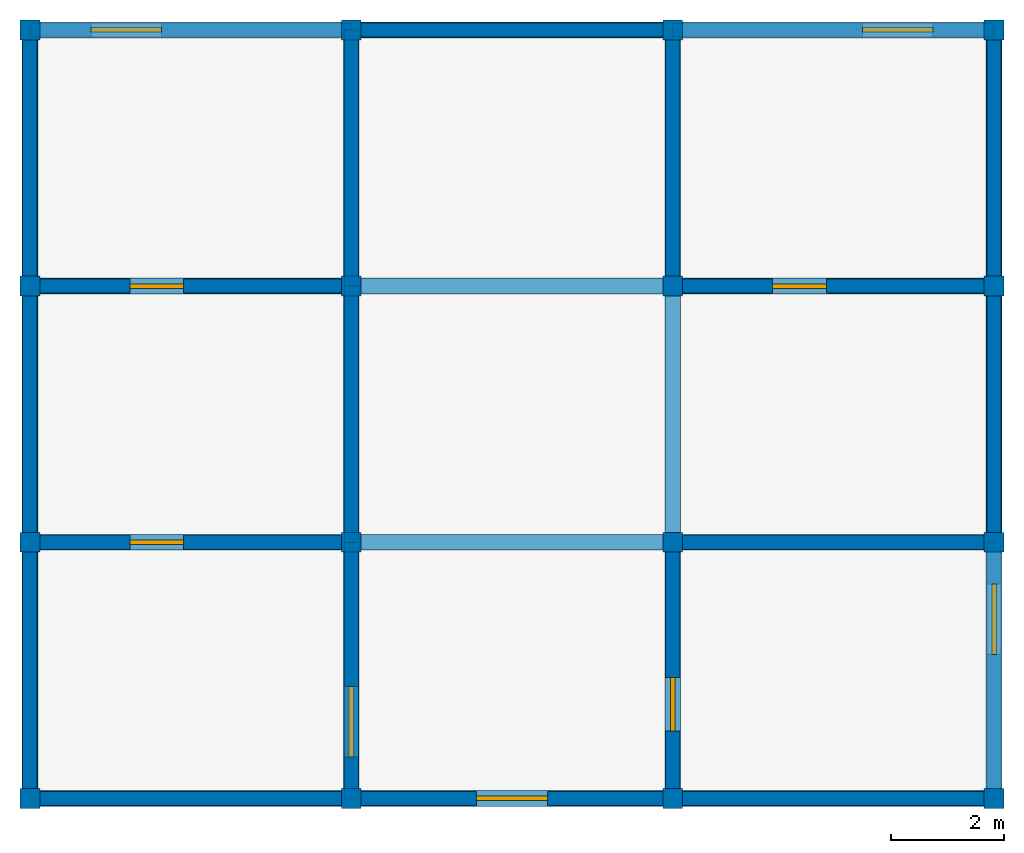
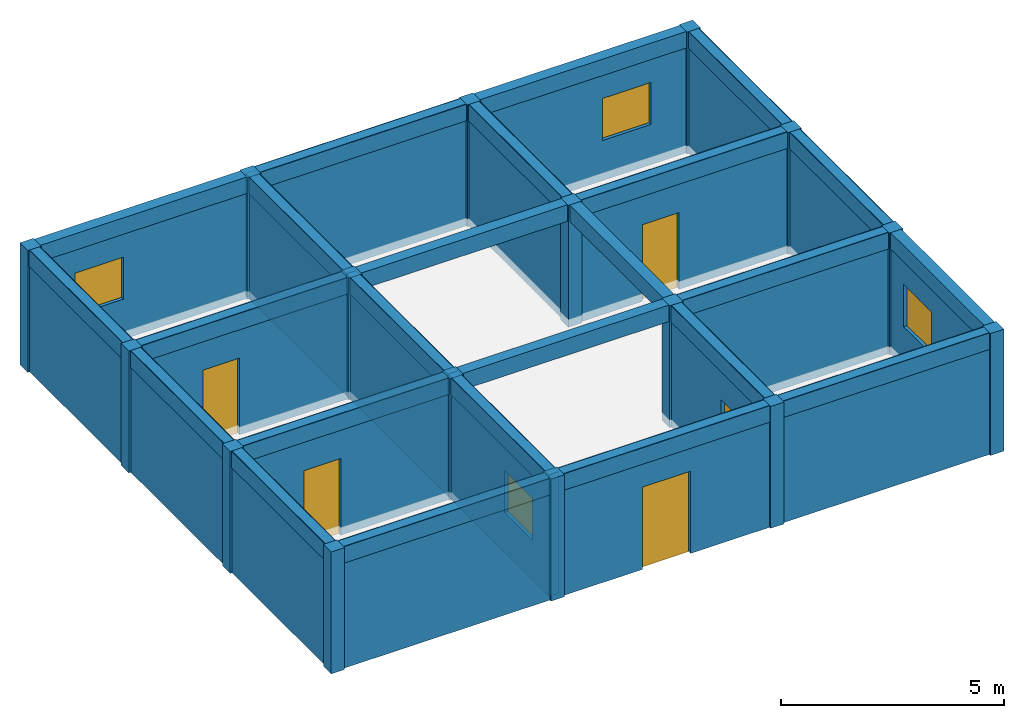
# One storey, incomplete: 24 beams, 24 walls, 16 columns, 5 doors, 4 windows, 9 openings.
"""IFC4X3 building model written with IfcOpenShell, lengths in metres."""

import ifcopenshell
import ifcopenshell.guid

model = None  # the IFC model being written
_history = None  # IfcOwnerHistory: only IFC2X3 demands one
_inside = {}  # id of a spatial element -> (the spatial element, [elements in it])
_under = {}  # id of a project, library or spatial element -> (it, [spatial elements below it])
_declared = {}  # id of a project -> (the project, [libraries it declares])
_typed = {}  # id of a type object -> (the type object, [elements of that type])
_made_of = {}  # id of a material, layer set ... -> (it, [elements and type objects made of it])


def new_model(schema):
    """Start an empty IFC model of exactly this schema.

    Asked for "IFC4X3", IfcOpenShell would pick the latest addendum, in which some entities
    have other attributes; the version numbers below select the first issue.
    IFC2X3 requires an IfcOwnerHistory on every rooted entity: one is made here for all.
    """
    global model, _history
    if schema == "IFC4X3":
        model = ifcopenshell.file(schema_version=(4, 3, 0, 0))
    else:
        model = ifcopenshell.file(schema=schema)
    _inside.clear()
    _under.clear()
    _declared.clear()
    _typed.clear()
    _made_of.clear()
    _history = None
    if model.schema == "IFC2X3":
        org = make("IfcOrganization", Name="unknown")
        user = make(
            "IfcPersonAndOrganization",
            ThePerson=make("IfcPerson", FamilyName="unknown"),
            TheOrganization=org,
        )
        app = make(
            "IfcApplication",
            ApplicationDeveloper=org,
            Version="unknown",
            ApplicationFullName="unknown",
            ApplicationIdentifier="unknown",
        )
        _history = make(
            "IfcOwnerHistory",
            OwningUser=user,
            OwningApplication=app,
            ChangeAction="ADDED",
            CreationDate=0,
        )
    return model


def make(cls, **values):
    """One entity of the class cls with the attributes given. An attribute that is None is left unset."""
    return model.create_entity(
        cls, **{name: value for name, value in values.items() if value is not None}
    )


def rooted(cls, **values):
    """An entity with a GlobalId (a new one), such as an element, a storey or a relation."""
    return make(cls, GlobalId=ifcopenshell.guid.new(), OwnerHistory=_history, **values)


def si_unit(unit_type, name, prefix=None):
    """IfcSIUnit, for example si_unit("LENGTHUNIT", "METRE", prefix="MILLI")."""
    return make("IfcSIUnit", UnitType=unit_type, Prefix=prefix, Name=name)


def assignment(units):
    """IfcUnitAssignment: the units of a project."""
    return None if units is None else make("IfcUnitAssignment", Units=units)


def point(xyz):
    """IfcCartesianPoint."""
    return None if xyz is None else make("IfcCartesianPoint", Coordinates=xyz)


def direction(xyz):
    """IfcDirection."""
    return None if xyz is None else make("IfcDirection", DirectionRatios=xyz)


def frame(location, z_axis=None, x_axis=None):
    """IfcAxis2Placement3D, a coordinate frame: its origin and axes. An axis left out is left unset."""
    return make(
        "IfcAxis2Placement3D",
        Location=point(location),
        Axis=direction(z_axis),
        RefDirection=direction(x_axis),
    )


def frame_2d(location, x_axis=None):
    """IfcAxis2Placement2D, a coordinate frame in the plane: its origin and x axis."""
    return make(
        "IfcAxis2Placement2D", Location=point(location), RefDirection=direction(x_axis)
    )


def origin_with_axes():
    """The frame at (0, 0, 0) with the z axis (0, 0, 1) and the x axis (1, 0, 0) written out."""
    return frame((0.0, 0.0, 0.0), z_axis=(0.0, 0.0, 1.0), x_axis=(1.0, 0.0, 0.0))


def origin_2d():
    """The frame at (0, 0) in the plane with its x axis left unset."""
    return frame_2d((0.0, 0.0))


def place(relative_to, where):
    """IfcLocalPlacement: puts the frame where relative to a parent placement (None: the world)."""
    return make(
        "IfcLocalPlacement", PlacementRelTo=relative_to, RelativePlacement=where
    )


def context(
    kind, dimensions, precision=None, world=None, true_north=None, identifier=None
):
    """IfcGeometricRepresentationContext, for example the 3D "Model" context."""
    return make(
        "IfcGeometricRepresentationContext",
        ContextIdentifier=identifier,
        ContextType=kind,
        CoordinateSpaceDimension=dimensions,
        Precision=precision,
        WorldCoordinateSystem=world,
        TrueNorth=true_north,
    )


def project(units=None, contexts=None):
    """IfcProject with its units and contexts."""
    return rooted(
        "IfcProject",
        Name="project",
        RepresentationContexts=contexts,
        UnitsInContext=assignment(units),
    )


def spatial(cls, under=None, at=None, **own):
    """A site, building, storey or space (cls), placed at a placement, below another one or the project."""
    s = rooted(cls, ObjectPlacement=at, **own)
    if under is not None:
        _under.setdefault(under.id(), (under, []))[1].append(s)
    return s


def profile(cls, at=None, kind="AREA", **sizes):
    """A parametric profile (cls). Its sizes go by their IFC names, for example OverallWidth=200.0."""
    return make(cls, ProfileType=kind, Position=at, **sizes)


def rectangle(**sizes):
    """IfcRectangleProfileDef."""
    return profile("IfcRectangleProfileDef", **sizes)


def extrude(swept, where, along, depth):
    """IfcExtrudedAreaSolid: the profile swept, set in the frame where, extruded along a direction by depth."""
    return make(
        "IfcExtrudedAreaSolid",
        SweptArea=swept,
        Position=where,
        ExtrudedDirection=direction(along),
        Depth=depth,
    )


def shape(context_of_items, identifier, shape_type, items):
    """IfcShapeRepresentation: the items that make up one representation, for example the "Body"."""
    return make(
        "IfcShapeRepresentation",
        ContextOfItems=context_of_items,
        RepresentationIdentifier=identifier,
        RepresentationType=shape_type,
        Items=items,
    )


def material(Name=None, Category=None):
    """IfcMaterial."""
    return make("IfcMaterial", Name=Name, Category=Category)


def made_of(thing, what):
    """Note that an element or type object is made of a material, layer set ...; save() writes the relation."""
    if what is not None:
        _made_of.setdefault(what.id(), (what, []))[1].append(thing)
    return thing


def element(
    cls,
    number,
    at=None,
    inside=None,
    cuts=None,
    type_object=None,
    material=None,
    context=None,
    identifier="Body",
    shape_type=None,
    held_by="IfcProductDefinitionShape",
    body=None,
    shapes=None,
    **own,
):
    """One element of the class cls, such as IfcWall. Its Tag is "e" and its number.

    at: its placement. inside: the storey or other place that contains it. cuts: it is an
    opening in that element (IfcRelVoidsElement). A single representation is given by context,
    identifier, shape_type and body (its items); several are given by shapes. held_by: the class
    of the entity that holds the representations. save() writes the other relations.
    """
    e = rooted(cls, Tag="e%d" % number, ObjectPlacement=at, **own)
    if body is not None:
        shapes = [shape(context, identifier, shape_type, body)]
    if shapes is not None:
        e.Representation = make(held_by, Representations=shapes)
    if inside is not None:
        _inside.setdefault(inside.id(), (inside, []))[1].append(e)
    if cuts is not None:
        rooted(
            "IfcRelVoidsElement", RelatingBuildingElement=cuts, RelatedOpeningElement=e
        )
    if type_object is not None:
        _typed.setdefault(type_object.id(), (type_object, []))[1].append(e)
    return made_of(e, material)


def fill(opening, filler):
    """IfcRelFillsElement: the door or window that sits in an opening."""
    return rooted(
        "IfcRelFillsElement",
        RelatingOpeningElement=opening,
        RelatedBuildingElement=filler,
    )


def aggregate(whole, parts):
    """IfcRelAggregates: a whole, such as a stair, and the parts it consists of."""
    return rooted("IfcRelAggregates", RelatingObject=whole, RelatedObjects=parts)


def save(model, path):
    """Write the relations noted so far, then the file.

    IfcRelAggregates (storeys below a building ...), IfcRelContainedInSpatialStructure (elements
    in a storey), IfcRelDefinesByType, IfcRelAssociatesMaterial and IfcRelDeclares: one each for
    every whole, place, type object, material and project.
    """
    for whole, parts in _under.values():
        aggregate(whole, parts)
    for where, things in _inside.values():
        rooted(
            "IfcRelContainedInSpatialStructure",
            RelatedElements=things,
            RelatingStructure=where,
        )
    for kind, things in _typed.values():
        rooted("IfcRelDefinesByType", RelatedObjects=things, RelatingType=kind)
    for what, things in _made_of.values():
        rooted("IfcRelAssociatesMaterial", RelatedObjects=things, RelatingMaterial=what)
    for by, libraries in _declared.values():
        rooted("IfcRelDeclares", RelatingContext=by, RelatedDefinitions=libraries)
    model.write(path)


model = new_model("IFC4X3")

# Units and contexts
model_context = context("Model", 3, precision=1e-05, world=origin_with_axes())
ifc_project = project(units=[si_unit("LENGTHUNIT", "METRE"), si_unit("AREAUNIT", "SQUARE_METRE"), si_unit("VOLUMEUNIT", "CUBIC_METRE")], contexts=[model_context])

# Site, building, storey
site = spatial("IfcSite", under=ifc_project, Name="Valdivia Parcel", CompositionType="ELEMENT")
building = spatial("IfcBuilding", under=site, Name="Strata Block", CompositionType="ELEMENT")
storey = spatial("IfcBuildingStorey", under=building, Name="Level 1", CompositionType="ELEMENT")

# Columns
ifc_material_1 = material(Name="Concrete")
column_1_placement = place(None, frame((-8.525, -6.795, 0.0), z_axis=(0.0, 0.0, 1.0), x_axis=(1.0, 0.0, 0.0)))
element("IfcColumn", 1, at=column_1_placement, inside=storey, material=ifc_material_1, Name="Column 1.1", ObjectType="Structural Column", PredefinedType="USERDEFINED", context=model_context, shape_type="SweptSolid", body=[
    extrude(rectangle(XDim=0.35, YDim=0.35, at=origin_2d()), origin_with_axes(), (0.0, 0.0, 1.0), 3.335),
])
column_2_placement = place(None, frame((-8.525, -2.265, 0.0), z_axis=(0.0, 0.0, 1.0), x_axis=(1.0, 0.0, 0.0)))
element("IfcColumn", 2, at=column_2_placement, inside=storey, material=ifc_material_1, Name="Column 1.2", ObjectType="Facade Column", PredefinedType="NOTDEFINED", context=model_context, shape_type="SweptSolid", body=[
    extrude(rectangle(XDim=0.35, YDim=0.35, at=origin_2d()), origin_with_axes(), (0.0, 0.0, 1.0), 3.335),
])
column_3_placement = place(None, frame((-8.525, 2.265, 0.0), z_axis=(0.0, 0.0, 1.0), x_axis=(1.0, 0.0, 0.0)))
element("IfcColumn", 3, at=column_3_placement, inside=storey, material=ifc_material_1, Name="Column 1.3", ObjectType="Facade Column", PredefinedType="USERDEFINED", context=model_context, shape_type="SweptSolid", body=[
    extrude(rectangle(XDim=0.35, YDim=0.35, at=origin_2d()), origin_with_axes(), (0.0, 0.0, 1.0), 3.335),
])
column_4_placement = place(None, frame((-8.525, 6.795, 0.0), z_axis=(0.0, 0.0, 1.0), x_axis=(1.0, 0.0, 0.0)))
element("IfcColumn", 4, at=column_4_placement, inside=storey, material=ifc_material_1, Name="Column 1.4", ObjectType="Core Column", PredefinedType="USERDEFINED", context=model_context, shape_type="SweptSolid", body=[
    extrude(rectangle(XDim=0.35, YDim=0.35, at=origin_2d()), origin_with_axes(), (0.0, 0.0, 1.0), 3.335),
])
column_5_placement = place(None, frame((-2.842, -6.795, 0.0), z_axis=(0.0, 0.0, 1.0), x_axis=(1.0, 0.0, 0.0)))
element("IfcColumn", 5, at=column_5_placement, inside=storey, material=ifc_material_1, Name="Column 1.5", ObjectType="Corner Column", PredefinedType="PILASTER", context=model_context, shape_type="SweptSolid", body=[
    extrude(rectangle(XDim=0.35, YDim=0.35, at=origin_2d()), origin_with_axes(), (0.0, 0.0, 1.0), 3.335),
])
column_6_placement = place(None, frame((-2.842, -2.265, 0.0), z_axis=(0.0, 0.0, 1.0), x_axis=(1.0, 0.0, 0.0)))
element("IfcColumn", 6, at=column_6_placement, inside=storey, material=ifc_material_1, Name="Column 1.6", ObjectType="Core Column", PredefinedType="NOTDEFINED", context=model_context, shape_type="SweptSolid", body=[
    extrude(rectangle(XDim=0.35, YDim=0.35, at=origin_2d()), origin_with_axes(), (0.0, 0.0, 1.0), 3.335),
])
column_7_placement = place(None, frame((-2.842, 2.265, 0.0), z_axis=(0.0, 0.0, 1.0), x_axis=(1.0, 0.0, 0.0)))
element("IfcColumn", 7, at=column_7_placement, inside=storey, material=ifc_material_1, Name="Column 1.7", ObjectType="Facade Column", PredefinedType="COLUMN", context=model_context, shape_type="SweptSolid", body=[
    extrude(rectangle(XDim=0.35, YDim=0.35, at=origin_2d()), origin_with_axes(), (0.0, 0.0, 1.0), 3.335),
])
column_8_placement = place(None, frame((-2.842, 6.795, 0.0), z_axis=(0.0, 0.0, 1.0), x_axis=(1.0, 0.0, 0.0)))
element("IfcColumn", 8, at=column_8_placement, inside=storey, material=ifc_material_1, Name="Column 1.8", ObjectType="Structural Column", PredefinedType="COLUMN", context=model_context, shape_type="SweptSolid", body=[
    extrude(rectangle(XDim=0.35, YDim=0.35, at=origin_2d()), origin_with_axes(), (0.0, 0.0, 1.0), 3.335),
])
column_9_placement = place(None, frame((2.841, -6.795, 0.0), z_axis=(0.0, 0.0, 1.0), x_axis=(1.0, 0.0, 0.0)))
element("IfcColumn", 9, at=column_9_placement, inside=storey, material=ifc_material_1, Name="Column 1.9", ObjectType="Facade Column", PredefinedType="COLUMN", context=model_context, shape_type="SweptSolid", body=[
    extrude(rectangle(XDim=0.35, YDim=0.35, at=origin_2d()), origin_with_axes(), (0.0, 0.0, 1.0), 3.335),
])
column_10_placement = place(None, frame((2.841, -2.265, 0.0), z_axis=(0.0, 0.0, 1.0), x_axis=(1.0, 0.0, 0.0)))
element("IfcColumn", 10, at=column_10_placement, inside=storey, material=ifc_material_1, Name="Column 1.10", ObjectType="Corner Column", PredefinedType="USERDEFINED", context=model_context, shape_type="SweptSolid", body=[
    extrude(rectangle(XDim=0.35, YDim=0.35, at=origin_2d()), origin_with_axes(), (0.0, 0.0, 1.0), 3.335),
])
for number, where, z_axis, x_axis, name in (
    (11, (2.841, 2.265, 0.0), (0.0, 0.0, 1.0), (1.0, 0.0, 0.0), "Column 1.11"),
    (12, (2.841, 6.795, 0.0), (0.0, 0.0, 1.0), (1.0, 0.0, 0.0), "Column 1.12"),
):
    element("IfcColumn", number, at=place(None, frame(where, z_axis=z_axis, x_axis=x_axis)), inside=storey, material=ifc_material_1, Name=name, ObjectType="Corner Column", PredefinedType="PILASTER", context=model_context, shape_type="SweptSolid", body=[
        extrude(rectangle(XDim=0.35, YDim=0.35, at=origin_2d()), origin_with_axes(), (0.0, 0.0, 1.0), 3.335),
    ])
column_11_placement = place(None, frame((8.524, -6.795, 0.0), z_axis=(0.0, 0.0, 1.0), x_axis=(1.0, 0.0, 0.0)))
element("IfcColumn", 13, at=column_11_placement, inside=storey, material=ifc_material_1, Name="Column 1.13", ObjectType="Core Column", PredefinedType="USERDEFINED", context=model_context, shape_type="SweptSolid", body=[
    extrude(rectangle(XDim=0.35, YDim=0.35, at=origin_2d()), origin_with_axes(), (0.0, 0.0, 1.0), 3.335),
])
column_12_placement = place(None, frame((8.524, -2.265, 0.0), z_axis=(0.0, 0.0, 1.0), x_axis=(1.0, 0.0, 0.0)))
element("IfcColumn", 14, at=column_12_placement, inside=storey, material=ifc_material_1, Name="Column 1.14", ObjectType="Facade Column", PredefinedType="PILASTER", context=model_context, shape_type="SweptSolid", body=[
    extrude(rectangle(XDim=0.35, YDim=0.35, at=origin_2d()), origin_with_axes(), (0.0, 0.0, 1.0), 3.335),
])
column_13_placement = place(None, frame((8.524, 2.265, 0.0), z_axis=(0.0, 0.0, 1.0), x_axis=(1.0, 0.0, 0.0)))
element("IfcColumn", 15, at=column_13_placement, inside=storey, material=ifc_material_1, Name="Column 1.15", ObjectType="Structural Column", PredefinedType="NOTDEFINED", context=model_context, shape_type="SweptSolid", body=[
    extrude(rectangle(XDim=0.35, YDim=0.35, at=origin_2d()), origin_with_axes(), (0.0, 0.0, 1.0), 3.335),
])
column_14_placement = place(None, frame((8.524, 6.795, 0.0), z_axis=(0.0, 0.0, 1.0), x_axis=(1.0, 0.0, 0.0)))
element("IfcColumn", 16, at=column_14_placement, inside=storey, material=ifc_material_1, Name="Column 1.16", ObjectType="Corner Column", PredefinedType="COLUMN", context=model_context, shape_type="SweptSolid", body=[
    extrude(rectangle(XDim=0.35, YDim=0.35, at=origin_2d()), origin_with_axes(), (0.0, 0.0, 1.0), 3.335),
])

# Beams
beam_1_placement = place(None, frame((-5.684, -6.795, 2.885), z_axis=(0.0, 0.0, 1.0), x_axis=(1.0, 0.0, 0.0)))
element("IfcBeam", 17, at=beam_1_placement, inside=storey, material=ifc_material_1, Name="Beam 1.1", ObjectType="Rafter Beam", PredefinedType="USERDEFINED", context=model_context, shape_type="SweptSolid", body=[
    extrude(rectangle(XDim=5.683, YDim=0.28, at=origin_2d()), origin_with_axes(), (0.0, 0.0, 1.0), 0.45),
])
beam_2_placement = place(None, frame((0.0, -6.795, 2.885), z_axis=(0.0, 0.0, 1.0), x_axis=(1.0, 0.0, 0.0)))
element("IfcBeam", 18, at=beam_2_placement, inside=storey, material=ifc_material_1, Name="Beam 1.2", ObjectType="Ridge Beam", PredefinedType="T_BEAM", context=model_context, shape_type="SweptSolid", body=[
    extrude(rectangle(XDim=5.683, YDim=0.28, at=origin_2d()), origin_with_axes(), (0.0, 0.0, 1.0), 0.45),
])
beam_3_placement = place(None, frame((5.682, -6.795, 2.885), z_axis=(0.0, 0.0, 1.0), x_axis=(1.0, 0.0, 0.0)))
element("IfcBeam", 19, at=beam_3_placement, inside=storey, material=ifc_material_1, Name="Beam 1.3", ObjectType="Ridge Beam", PredefinedType="USERDEFINED", context=model_context, shape_type="SweptSolid", body=[
    extrude(rectangle(XDim=5.683, YDim=0.28, at=origin_2d()), origin_with_axes(), (0.0, 0.0, 1.0), 0.45),
])
beam_4_placement = place(None, frame((-5.684, -2.265, 2.885), z_axis=(0.0, 0.0, 1.0), x_axis=(1.0, 0.0, 0.0)))
element("IfcBeam", 20, at=beam_4_placement, inside=storey, material=ifc_material_1, Name="Beam 1.4", ObjectType="Rafter Beam", PredefinedType="T_BEAM", context=model_context, shape_type="SweptSolid", body=[
    extrude(rectangle(XDim=5.683, YDim=0.28, at=origin_2d()), origin_with_axes(), (0.0, 0.0, 1.0), 0.45),
])
beam_5_placement = place(None, frame((0.0, -2.265, 2.885), z_axis=(0.0, 0.0, 1.0), x_axis=(1.0, 0.0, 0.0)))
element("IfcBeam", 21, at=beam_5_placement, inside=storey, material=ifc_material_1, Name="Beam 1.5", ObjectType="Ridge Beam", PredefinedType="JOIST", context=model_context, shape_type="SweptSolid", body=[
    extrude(rectangle(XDim=5.683, YDim=0.28, at=origin_2d()), origin_with_axes(), (0.0, 0.0, 1.0), 0.45),
])
beam_6_placement = place(None, frame((5.682, -2.265, 2.885), z_axis=(0.0, 0.0, 1.0), x_axis=(1.0, 0.0, 0.0)))
element("IfcBeam", 22, at=beam_6_placement, inside=storey, material=ifc_material_1, Name="Beam 1.6", ObjectType="Transfer Beam", PredefinedType="HOLLOWCORE", context=model_context, shape_type="SweptSolid", body=[
    extrude(rectangle(XDim=5.683, YDim=0.28, at=origin_2d()), origin_with_axes(), (0.0, 0.0, 1.0), 0.45),
])
beam_7_placement = place(None, frame((-5.684, 2.265, 2.885), z_axis=(0.0, 0.0, 1.0), x_axis=(1.0, 0.0, 0.0)))
element("IfcBeam", 23, at=beam_7_placement, inside=storey, material=ifc_material_1, Name="Beam 1.7", ObjectType="Secondary Beam", PredefinedType="T_BEAM", context=model_context, shape_type="SweptSolid", body=[
    extrude(rectangle(XDim=5.683, YDim=0.28, at=origin_2d()), origin_with_axes(), (0.0, 0.0, 1.0), 0.45),
])
beam_8_placement = place(None, frame((0.0, 2.265, 2.885), z_axis=(0.0, 0.0, 1.0), x_axis=(1.0, 0.0, 0.0)))
element("IfcBeam", 24, at=beam_8_placement, inside=storey, material=ifc_material_1, Name="Beam 1.8", ObjectType="Primary Beam", PredefinedType="T_BEAM", context=model_context, shape_type="SweptSolid", body=[
    extrude(rectangle(XDim=5.683, YDim=0.28, at=origin_2d()), origin_with_axes(), (0.0, 0.0, 1.0), 0.45),
])
beam_9_placement = place(None, frame((5.682, 2.265, 2.885), z_axis=(0.0, 0.0, 1.0), x_axis=(1.0, 0.0, 0.0)))
element("IfcBeam", 25, at=beam_9_placement, inside=storey, material=ifc_material_1, Name="Beam 1.9", ObjectType="Ridge Beam", PredefinedType="LINTEL", context=model_context, shape_type="SweptSolid", body=[
    extrude(rectangle(XDim=5.683, YDim=0.28, at=origin_2d()), origin_with_axes(), (0.0, 0.0, 1.0), 0.45),
])
beam_10_placement = place(None, frame((-5.684, 6.795, 2.885), z_axis=(0.0, 0.0, 1.0), x_axis=(1.0, 0.0, 0.0)))
element("IfcBeam", 26, at=beam_10_placement, inside=storey, material=ifc_material_1, Name="Beam 1.10", ObjectType="Ridge Beam", PredefinedType="T_BEAM", context=model_context, shape_type="SweptSolid", body=[
    extrude(rectangle(XDim=5.683, YDim=0.28, at=origin_2d()), origin_with_axes(), (0.0, 0.0, 1.0), 0.45),
])
beam_11_placement = place(None, frame((0.0, 6.795, 2.885), z_axis=(0.0, 0.0, 1.0), x_axis=(1.0, 0.0, 0.0)))
element("IfcBeam", 27, at=beam_11_placement, inside=storey, material=ifc_material_1, Name="Beam 1.11", ObjectType="Ridge Beam", PredefinedType="HOLLOWCORE", context=model_context, shape_type="SweptSolid", body=[
    extrude(rectangle(XDim=5.683, YDim=0.28, at=origin_2d()), origin_with_axes(), (0.0, 0.0, 1.0), 0.45),
])
beam_12_placement = place(None, frame((5.682, 6.795, 2.885), z_axis=(0.0, 0.0, 1.0), x_axis=(1.0, 0.0, 0.0)))
element("IfcBeam", 28, at=beam_12_placement, inside=storey, material=ifc_material_1, Name="Beam 1.12", ObjectType="Rafter Beam", PredefinedType="LINTEL", context=model_context, shape_type="SweptSolid", body=[
    extrude(rectangle(XDim=5.683, YDim=0.28, at=origin_2d()), origin_with_axes(), (0.0, 0.0, 1.0), 0.45),
])
beam_13_placement = place(None, frame((-8.525, -4.53, 2.885), z_axis=(0.0, 0.0, 1.0), x_axis=(0.0, 1.0, 0.0)))
element("IfcBeam", 29, at=beam_13_placement, inside=storey, material=ifc_material_1, Name="Beam 1.13", ObjectType="Primary Beam", PredefinedType="USERDEFINED", context=model_context, shape_type="SweptSolid", body=[
    extrude(rectangle(XDim=4.53, YDim=0.28, at=origin_2d()), origin_with_axes(), (0.0, 0.0, 1.0), 0.45),
])
beam_14_placement = place(None, frame((-8.525, 0.0, 2.885), z_axis=(0.0, 0.0, 1.0), x_axis=(0.0, 1.0, 0.0)))
element("IfcBeam", 30, at=beam_14_placement, inside=storey, material=ifc_material_1, Name="Beam 1.14", ObjectType="Rafter Beam", PredefinedType="SPANDREL", context=model_context, shape_type="SweptSolid", body=[
    extrude(rectangle(XDim=4.53, YDim=0.28, at=origin_2d()), origin_with_axes(), (0.0, 0.0, 1.0), 0.45),
])
beam_15_placement = place(None, frame((-8.525, 4.53, 2.885), z_axis=(0.0, 0.0, 1.0), x_axis=(0.0, 1.0, 0.0)))
element("IfcBeam", 31, at=beam_15_placement, inside=storey, material=ifc_material_1, Name="Beam 1.15", ObjectType="Ridge Beam", PredefinedType="SPANDREL", context=model_context, shape_type="SweptSolid", body=[
    extrude(rectangle(XDim=4.53, YDim=0.28, at=origin_2d()), origin_with_axes(), (0.0, 0.0, 1.0), 0.45),
])
beam_16_placement = place(None, frame((-2.842, -4.53, 2.885), z_axis=(0.0, 0.0, 1.0), x_axis=(0.0, 1.0, 0.0)))
element("IfcBeam", 32, at=beam_16_placement, inside=storey, material=ifc_material_1, Name="Beam 1.16", ObjectType="Ridge Beam", PredefinedType="JOIST", context=model_context, shape_type="SweptSolid", body=[
    extrude(rectangle(XDim=4.53, YDim=0.28, at=origin_2d()), origin_with_axes(), (0.0, 0.0, 1.0), 0.45),
])
beam_17_placement = place(None, frame((-2.842, 0.0, 2.885), z_axis=(0.0, 0.0, 1.0), x_axis=(0.0, 1.0, 0.0)))
element("IfcBeam", 33, at=beam_17_placement, inside=storey, material=ifc_material_1, Name="Beam 1.17", ObjectType="Transfer Beam", PredefinedType="USERDEFINED", context=model_context, shape_type="SweptSolid", body=[
    extrude(rectangle(XDim=4.53, YDim=0.28, at=origin_2d()), origin_with_axes(), (0.0, 0.0, 1.0), 0.45),
])
beam_18_placement = place(None, frame((-2.842, 4.53, 2.885), z_axis=(0.0, 0.0, 1.0), x_axis=(0.0, 1.0, 0.0)))
element("IfcBeam", 34, at=beam_18_placement, inside=storey, material=ifc_material_1, Name="Beam 1.18", ObjectType="Rafter Beam", PredefinedType="BEAM", context=model_context, shape_type="SweptSolid", body=[
    extrude(rectangle(XDim=4.53, YDim=0.28, at=origin_2d()), origin_with_axes(), (0.0, 0.0, 1.0), 0.45),
])
beam_19_placement = place(None, frame((2.841, -4.53, 2.885), z_axis=(0.0, 0.0, 1.0), x_axis=(0.0, 1.0, 0.0)))
element("IfcBeam", 35, at=beam_19_placement, inside=storey, material=ifc_material_1, Name="Beam 1.19", ObjectType="Rafter Beam", PredefinedType="USERDEFINED", context=model_context, shape_type="SweptSolid", body=[
    extrude(rectangle(XDim=4.53, YDim=0.28, at=origin_2d()), origin_with_axes(), (0.0, 0.0, 1.0), 0.45),
])
beam_20_placement = place(None, frame((2.841, 0.0, 2.885), z_axis=(0.0, 0.0, 1.0), x_axis=(0.0, 1.0, 0.0)))
element("IfcBeam", 36, at=beam_20_placement, inside=storey, material=ifc_material_1, Name="Beam 1.20", ObjectType="Ridge Beam", PredefinedType="SPANDREL", context=model_context, shape_type="SweptSolid", body=[
    extrude(rectangle(XDim=4.53, YDim=0.28, at=origin_2d()), origin_with_axes(), (0.0, 0.0, 1.0), 0.45),
])
beam_21_placement = place(None, frame((2.841, 4.53, 2.885), z_axis=(0.0, 0.0, 1.0), x_axis=(0.0, 1.0, 0.0)))
element("IfcBeam", 37, at=beam_21_placement, inside=storey, material=ifc_material_1, Name="Beam 1.21", ObjectType="Rafter Beam", PredefinedType="USERDEFINED", context=model_context, shape_type="SweptSolid", body=[
    extrude(rectangle(XDim=4.53, YDim=0.28, at=origin_2d()), origin_with_axes(), (0.0, 0.0, 1.0), 0.45),
])
beam_22_placement = place(None, frame((8.524, -4.53, 2.885), z_axis=(0.0, 0.0, 1.0), x_axis=(0.0, 1.0, 0.0)))
element("IfcBeam", 38, at=beam_22_placement, inside=storey, material=ifc_material_1, Name="Beam 1.22", ObjectType="Primary Beam", PredefinedType="HOLLOWCORE", context=model_context, shape_type="SweptSolid", body=[
    extrude(rectangle(XDim=4.53, YDim=0.28, at=origin_2d()), origin_with_axes(), (0.0, 0.0, 1.0), 0.45),
])
beam_23_placement = place(None, frame((8.524, 0.0, 2.885), z_axis=(0.0, 0.0, 1.0), x_axis=(0.0, 1.0, 0.0)))
element("IfcBeam", 39, at=beam_23_placement, inside=storey, material=ifc_material_1, Name="Beam 1.23", ObjectType="Secondary Beam", PredefinedType="SPANDREL", context=model_context, shape_type="SweptSolid", body=[
    extrude(rectangle(XDim=4.53, YDim=0.28, at=origin_2d()), origin_with_axes(), (0.0, 0.0, 1.0), 0.45),
])
beam_24_placement = place(None, frame((8.524, 4.53, 2.885), z_axis=(0.0, 0.0, 1.0), x_axis=(0.0, 1.0, 0.0)))
element("IfcBeam", 40, at=beam_24_placement, inside=storey, material=ifc_material_1, Name="Beam 1.24", ObjectType="Transfer Beam", PredefinedType="NOTDEFINED", context=model_context, shape_type="SweptSolid", body=[
    extrude(rectangle(XDim=4.53, YDim=0.28, at=origin_2d()), origin_with_axes(), (0.0, 0.0, 1.0), 0.45),
])

# Wall, opening, door
ifc_material_2 = material(Name="Gypsum")
wall_1_placement = place(None, frame((-5.684, -2.265, 0.0), z_axis=(0.0, 0.0, 1.0), x_axis=(1.0, 0.0, 0.0)))
wall_1 = element("IfcWall", 41, at=wall_1_placement, inside=storey, material=ifc_material_2, Name="Wall 1.1", ObjectType="Corridor Partition", PredefinedType="SOLIDWALL", context=model_context, shape_type="SweptSolid", body=[
    extrude(rectangle(XDim=5.683, YDim=0.252044, at=origin_2d()), origin_with_axes(), (0.0, 0.0, 1.0), 3.335),
])
opening_1_placement = place(None, frame((-6.284, -2.265, 0.0), z_axis=(0.0, 0.0, 1.0), x_axis=(1.0, 0.0, 0.0)))
opening_1 = element("IfcOpeningElement", 42, at=opening_1_placement, cuts=wall_1, Name="Door opening 1.1", ObjectType="Door Opening", PredefinedType="OPENING", context=model_context, shape_type="SweptSolid", body=[
    extrude(rectangle(XDim=0.95, YDim=0.332044, at=origin_2d()), origin_with_axes(), (0.0, 0.0, 1.0), 2.1),
])
door_1_placement = place(None, frame((-6.284, -2.265, 0.0), z_axis=(0.0, 0.0, 1.0), x_axis=(1.0, 0.0, 0.0)))
door_1 = element("IfcDoor", 43, at=door_1_placement, inside=storey, Name="Door 1.1", ObjectType="Fire Door", OverallHeight=2.1, OverallWidth=0.95, context=model_context, shape_type="SweptSolid", body=[
    extrude(rectangle(XDim=0.95, YDim=0.08, at=origin_2d()), origin_with_axes(), (0.0, 0.0, 1.0), 2.1),
])
fill(opening_1, door_1)

# Wall, opening, window
ifc_material_3 = material(Name="Brick")
wall_2_placement = place(None, frame((-2.8425, -4.53, 0.0), z_axis=(0.0, 0.0, 1.0), x_axis=(0.0, 1.0, 0.0)))
wall_2 = element("IfcWall", 44, at=wall_2_placement, inside=storey, material=ifc_material_3, Name="Wall 1.2", ObjectType="Exterior Wall", PredefinedType="PARTITIONING", context=model_context, shape_type="SweptSolid", body=[
    extrude(rectangle(XDim=4.53, YDim=0.252044, at=origin_2d()), origin_with_axes(), (0.0, 0.0, 1.0), 3.335),
])
opening_2_placement = place(None, frame((-2.843, -5.436, 1.1), z_axis=(0.0, 0.0, 1.0), x_axis=(0.0, 1.0, 0.0)))
opening_2 = element("IfcOpeningElement", 45, at=opening_2_placement, cuts=wall_2, Name="Window opening 1.2", ObjectType="Window Opening", PredefinedType="OPENING", context=model_context, shape_type="SweptSolid", body=[
    extrude(rectangle(XDim=1.25, YDim=0.332044, at=origin_2d()), origin_with_axes(), (0.0, 0.0, 1.0), 1.15),
])
window_1_placement = place(None, frame((-2.843, -5.436, 1.1), z_axis=(0.0, 0.0, 1.0), x_axis=(0.0, 1.0, 0.0)))
window_1 = element("IfcWindow", 46, at=window_1_placement, inside=storey, Name="Window 1.2", ObjectType="Curtain Window", OverallHeight=1.15, OverallWidth=1.25, context=model_context, shape_type="SweptSolid", body=[
    extrude(rectangle(XDim=1.25, YDim=0.08, at=origin_2d()), origin_with_axes(), (0.0, 0.0, 1.0), 1.15),
])
fill(opening_2, window_1)

# Walls
ifc_material_4 = material(Name="CLT")
wall_3_placement = place(None, frame((-5.684, -6.795, 0.0), z_axis=(0.0, 0.0, 1.0), x_axis=(1.0, 0.0, 0.0)))
element("IfcWall", 47, at=wall_3_placement, inside=storey, material=ifc_material_4, Name="Wall 1.3", ObjectType="Exterior Wall", PredefinedType="NOTDEFINED", context=model_context, shape_type="SweptSolid", body=[
    extrude(rectangle(XDim=5.683, YDim=0.252044, at=origin_2d()), origin_with_axes(), (0.0, 0.0, 1.0), 3.335),
])
wall_4_placement = place(None, frame((-8.5255, -4.53, 0.0), z_axis=(0.0, 0.0, 1.0), x_axis=(0.0, 1.0, 0.0)))
element("IfcWall", 48, at=wall_4_placement, inside=storey, material=ifc_material_2, Name="Wall 1.4", ObjectType="Exterior Wall", PredefinedType="NOTDEFINED", context=model_context, shape_type="SweptSolid", body=[
    extrude(rectangle(XDim=4.53, YDim=0.252044, at=origin_2d()), origin_with_axes(), (0.0, 0.0, 1.0), 3.335),
])

# Wall, opening, door
wall_5_placement = place(None, frame((2.8405, -4.53, 0.0), z_axis=(0.0, 0.0, 1.0), x_axis=(0.0, 1.0, 0.0)))
wall_5 = element("IfcWall", 49, at=wall_5_placement, inside=storey, material=ifc_material_4, Name="Wall 1.5", ObjectType="Corridor Partition", PredefinedType="SHEAR", context=model_context, shape_type="SweptSolid", body=[
    extrude(rectangle(XDim=4.53, YDim=0.252044, at=origin_2d()), origin_with_axes(), (0.0, 0.0, 1.0), 3.335),
])
opening_3_placement = place(None, frame((2.841, -5.13, 0.0), z_axis=(0.0, 0.0, 1.0), x_axis=(0.0, 1.0, 0.0)))
opening_3 = element("IfcOpeningElement", 50, at=opening_3_placement, cuts=wall_5, Name="Door opening 1.3", ObjectType="Door Opening", PredefinedType="OPENING", context=model_context, shape_type="SweptSolid", body=[
    extrude(rectangle(XDim=0.95, YDim=0.332044, at=origin_2d()), origin_with_axes(), (0.0, 0.0, 1.0), 2.1),
])
door_2_placement = place(None, frame((2.841, -5.13, 0.0), z_axis=(0.0, 0.0, 1.0), x_axis=(0.0, 1.0, 0.0)))
door_2 = element("IfcDoor", 51, at=door_2_placement, inside=storey, Name="Door 1.3", ObjectType="Interior Door", OverallHeight=2.1, OverallWidth=0.95, context=model_context, shape_type="SweptSolid", body=[
    extrude(rectangle(XDim=0.95, YDim=0.08, at=origin_2d()), origin_with_axes(), (0.0, 0.0, 1.0), 2.1),
])
fill(opening_3, door_2)

wall_6_placement = place(None, frame((-0.001, -6.795, 0.0), z_axis=(0.0, 0.0, 1.0), x_axis=(1.0, 0.0, 0.0)))
wall_6 = element("IfcWall", 52, at=wall_6_placement, inside=storey, material=ifc_material_2, Name="Wall 1.6", ObjectType="Exterior Wall", PredefinedType="ELEMENTEDWALL", context=model_context, shape_type="SweptSolid", body=[
    extrude(rectangle(XDim=5.683, YDim=0.252044, at=origin_2d()), origin_with_axes(), (0.0, 0.0, 1.0), 3.335),
])
opening_4_placement = place(None, frame((-0.001, -6.795, 0.0), z_axis=(0.0, 0.0, 1.0), x_axis=(1.0, 0.0, 0.0)))
opening_4 = element("IfcOpeningElement", 53, at=opening_4_placement, cuts=wall_6, Name="Door opening 1.9", ObjectType="Door Opening", PredefinedType="OPENING", context=model_context, shape_type="SweptSolid", body=[
    extrude(rectangle(XDim=1.25, YDim=0.332044, at=origin_2d()), origin_with_axes(), (0.0, 0.0, 1.0), 2.25),
])
door_3_placement = place(None, frame((-0.001, -6.795, 0.0), z_axis=(0.0, 0.0, 1.0), x_axis=(1.0, 0.0, 0.0)))
door_3 = element("IfcDoor", 54, at=door_3_placement, inside=storey, Name="Door 1.9", ObjectType="Fire Door", OverallHeight=2.25, OverallWidth=1.25, context=model_context, shape_type="SweptSolid", body=[
    extrude(rectangle(XDim=1.25, YDim=0.08, at=origin_2d()), origin_with_axes(), (0.0, 0.0, 1.0), 2.25),
])
fill(opening_4, door_3)

# Walls
wall_7_placement = place(None, frame((-2.8425, -4.53, 0.0), z_axis=(0.0, 0.0, 1.0), x_axis=(0.0, 1.0, 0.0)))
element("IfcWall", 55, at=wall_7_placement, inside=storey, material=ifc_material_3, Name="Wall 1.7", ObjectType="Exterior Wall", PredefinedType="STANDARD", context=model_context, shape_type="SweptSolid", body=[
    extrude(rectangle(XDim=4.53, YDim=0.252044, at=origin_2d()), origin_with_axes(), (0.0, 0.0, 1.0), 3.335),
])
wall_8_placement = place(None, frame((5.682, -2.265, 0.0), z_axis=(0.0, 0.0, 1.0), x_axis=(1.0, 0.0, 0.0)))
element("IfcWall", 56, at=wall_8_placement, inside=storey, material=ifc_material_4, Name="Wall 1.8", ObjectType="Corridor Partition", PredefinedType="POLYGONAL", context=model_context, shape_type="SweptSolid", body=[
    extrude(rectangle(XDim=5.683, YDim=0.252044, at=origin_2d()), origin_with_axes(), (0.0, 0.0, 1.0), 3.335),
])

# Wall, opening, window
wall_9_placement = place(None, frame((8.5235, -4.53, 0.0), z_axis=(0.0, 0.0, 1.0), x_axis=(0.0, 1.0, 0.0)))
wall_9 = element("IfcWall", 57, at=wall_9_placement, inside=storey, material=ifc_material_3, Name="Wall 1.9", ObjectType="Exterior Wall", PredefinedType="PARTITIONING", context=model_context, shape_type="SweptSolid", body=[
    extrude(rectangle(XDim=4.53, YDim=0.252044, at=origin_2d()), origin_with_axes(), (0.0, 0.0, 1.0), 3.335),
])
opening_5_placement = place(None, frame((8.524, -3.624, 1.1), z_axis=(0.0, 0.0, 1.0), x_axis=(0.0, 1.0, 0.0)))
opening_5 = element("IfcOpeningElement", 58, at=opening_5_placement, cuts=wall_9, Name="Window opening 1.4", ObjectType="Window Opening", PredefinedType="OPENING", context=model_context, shape_type="SweptSolid", body=[
    extrude(rectangle(XDim=1.25, YDim=0.332044, at=origin_2d()), origin_with_axes(), (0.0, 0.0, 1.0), 1.15),
])
window_2_placement = place(None, frame((8.524, -3.624, 1.1), z_axis=(0.0, 0.0, 1.0), x_axis=(0.0, 1.0, 0.0)))
window_2 = element("IfcWindow", 59, at=window_2_placement, inside=storey, Name="Window 1.4", ObjectType="Operable Window", OverallHeight=1.15, OverallWidth=1.25, context=model_context, shape_type="SweptSolid", body=[
    extrude(rectangle(XDim=1.25, YDim=0.08, at=origin_2d()), origin_with_axes(), (0.0, 0.0, 1.0), 1.15),
])
fill(opening_5, window_2)

# Wall
wall_10_placement = place(None, frame((5.682, -6.795, 0.0), z_axis=(0.0, 0.0, 1.0), x_axis=(1.0, 0.0, 0.0)))
element("IfcWall", 60, at=wall_10_placement, inside=storey, material=ifc_material_2, Name="Wall 1.10", ObjectType="Exterior Wall", PredefinedType="USERDEFINED", context=model_context, shape_type="SweptSolid", body=[
    extrude(rectangle(XDim=5.683, YDim=0.252044, at=origin_2d()), origin_with_axes(), (0.0, 0.0, 1.0), 3.335),
])

# Wall, opening, door
wall_11_placement = place(None, frame((-5.684, 2.265, 0.0), z_axis=(0.0, 0.0, 1.0), x_axis=(1.0, 0.0, 0.0)))
wall_11 = element("IfcWall", 61, at=wall_11_placement, inside=storey, material=ifc_material_2, Name="Wall 1.11", ObjectType="Corridor Partition", PredefinedType="POLYGONAL", context=model_context, shape_type="SweptSolid", body=[
    extrude(rectangle(XDim=5.683, YDim=0.252044, at=origin_2d()), origin_with_axes(), (0.0, 0.0, 1.0), 3.335),
])
opening_6_placement = place(None, frame((-6.284, 2.265, 0.0), z_axis=(0.0, 0.0, 1.0), x_axis=(1.0, 0.0, 0.0)))
opening_6 = element("IfcOpeningElement", 62, at=opening_6_placement, cuts=wall_11, Name="Door opening 1.5", ObjectType="Door Opening", PredefinedType="OPENING", context=model_context, shape_type="SweptSolid", body=[
    extrude(rectangle(XDim=0.95, YDim=0.332044, at=origin_2d()), origin_with_axes(), (0.0, 0.0, 1.0), 2.1),
])
door_4_placement = place(None, frame((-6.284, 2.265, 0.0), z_axis=(0.0, 0.0, 1.0), x_axis=(1.0, 0.0, 0.0)))
door_4 = element("IfcDoor", 63, at=door_4_placement, inside=storey, Name="Door 1.5", ObjectType="Interior Door", OverallHeight=2.1, OverallWidth=0.95, context=model_context, shape_type="SweptSolid", body=[
    extrude(rectangle(XDim=0.95, YDim=0.08, at=origin_2d()), origin_with_axes(), (0.0, 0.0, 1.0), 2.1),
])
fill(opening_6, door_4)

# Walls
wall_12_placement = place(None, frame((-2.8425, 0.0, 0.0), z_axis=(0.0, 0.0, 1.0), x_axis=(0.0, 1.0, 0.0)))
element("IfcWall", 64, at=wall_12_placement, inside=storey, material=ifc_material_1, Name="Wall 1.12", ObjectType="Exterior Wall", PredefinedType="MOVABLE", context=model_context, shape_type="SweptSolid", body=[
    extrude(rectangle(XDim=4.53, YDim=0.252044, at=origin_2d()), origin_with_axes(), (0.0, 0.0, 1.0), 3.335),
])
for number, where, z_axis, x_axis, name in (
    (65, (-8.5255, 0.0, 0.0), (0.0, 0.0, 1.0), (0.0, 1.0, 0.0), "Wall 1.13"),
    (66, (-2.8425, 0.0, 0.0), (0.0, 0.0, 1.0), (0.0, 1.0, 0.0), "Wall 1.14"),
):
    element("IfcWall", number, at=place(None, frame(where, z_axis=z_axis, x_axis=x_axis)), inside=storey, material=ifc_material_4, Name=name, ObjectType="Exterior Wall", PredefinedType="MOVABLE", context=model_context, shape_type="SweptSolid", body=[
        extrude(rectangle(XDim=4.53, YDim=0.252044, at=origin_2d()), origin_with_axes(), (0.0, 0.0, 1.0), 3.335),
    ])

# Wall, opening, door
wall_13_placement = place(None, frame((5.682, 2.265, 0.0), z_axis=(0.0, 0.0, 1.0), x_axis=(1.0, 0.0, 0.0)))
wall_13 = element("IfcWall", 67, at=wall_13_placement, inside=storey, material=ifc_material_2, Name="Wall 1.15", ObjectType="Corridor Partition", PredefinedType="NOTDEFINED", context=model_context, shape_type="SweptSolid", body=[
    extrude(rectangle(XDim=5.683, YDim=0.252044, at=origin_2d()), origin_with_axes(), (0.0, 0.0, 1.0), 3.335),
])
opening_7_placement = place(None, frame((5.082, 2.265, 0.0), z_axis=(0.0, 0.0, 1.0), x_axis=(1.0, 0.0, 0.0)))
opening_7 = element("IfcOpeningElement", 68, at=opening_7_placement, cuts=wall_13, Name="Door opening 1.7", ObjectType="Door Opening", PredefinedType="OPENING", context=model_context, shape_type="SweptSolid", body=[
    extrude(rectangle(XDim=0.95, YDim=0.332044, at=origin_2d()), origin_with_axes(), (0.0, 0.0, 1.0), 2.1),
])
door_5_placement = place(None, frame((5.082, 2.265, 0.0), z_axis=(0.0, 0.0, 1.0), x_axis=(1.0, 0.0, 0.0)))
door_5 = element("IfcDoor", 69, at=door_5_placement, inside=storey, Name="Door 1.7", ObjectType="Fire Door", OverallHeight=2.1, OverallWidth=0.95, context=model_context, shape_type="SweptSolid", body=[
    extrude(rectangle(XDim=0.95, YDim=0.08, at=origin_2d()), origin_with_axes(), (0.0, 0.0, 1.0), 2.1),
])
fill(opening_7, door_5)

# Wall
wall_14_placement = place(None, frame((8.5235, 0.0, 0.0), z_axis=(0.0, 0.0, 1.0), x_axis=(0.0, 1.0, 0.0)))
element("IfcWall", 70, at=wall_14_placement, inside=storey, material=ifc_material_3, Name="Wall 1.16", ObjectType="Exterior Wall", PredefinedType="PARTITIONING", context=model_context, shape_type="SweptSolid", body=[
    extrude(rectangle(XDim=4.53, YDim=0.252044, at=origin_2d()), origin_with_axes(), (0.0, 0.0, 1.0), 3.335),
])

# Wall, opening, window
wall_15_placement = place(None, frame((-5.684, 6.795, 0.0), z_axis=(0.0, 0.0, 1.0), x_axis=(1.0, 0.0, 0.0)))
wall_15 = element("IfcWall", 71, at=wall_15_placement, inside=storey, material=ifc_material_4, Name="Wall 1.17", ObjectType="Exterior Wall", PredefinedType="PARTITIONING", context=model_context, shape_type="SweptSolid", body=[
    extrude(rectangle(XDim=5.683, YDim=0.252044, at=origin_2d()), origin_with_axes(), (0.0, 0.0, 1.0), 3.335),
])
opening_8_placement = place(None, frame((-6.821, 6.795, 1.1), z_axis=(0.0, 0.0, 1.0), x_axis=(1.0, 0.0, 0.0)))
opening_8 = element("IfcOpeningElement", 72, at=opening_8_placement, cuts=wall_15, Name="Window opening 1.6", ObjectType="Window Opening", PredefinedType="OPENING", context=model_context, shape_type="SweptSolid", body=[
    extrude(rectangle(XDim=1.25, YDim=0.332044, at=origin_2d()), origin_with_axes(), (0.0, 0.0, 1.0), 1.15),
])
window_3_placement = place(None, frame((-6.821, 6.795, 1.1), z_axis=(0.0, 0.0, 1.0), x_axis=(1.0, 0.0, 0.0)))
window_3 = element("IfcWindow", 73, at=window_3_placement, inside=storey, Name="Window 1.6", ObjectType="Louvre Window", OverallHeight=1.15, OverallWidth=1.25, context=model_context, shape_type="SweptSolid", body=[
    extrude(rectangle(XDim=1.25, YDim=0.08, at=origin_2d()), origin_with_axes(), (0.0, 0.0, 1.0), 1.15),
])
fill(opening_8, window_3)

# Walls
wall_16_placement = place(None, frame((-2.8425, 4.53, 0.0), z_axis=(0.0, 0.0, 1.0), x_axis=(0.0, 1.0, 0.0)))
element("IfcWall", 74, at=wall_16_placement, inside=storey, material=ifc_material_1, Name="Wall 1.18", ObjectType="Exterior Wall", PredefinedType="SOLIDWALL", context=model_context, shape_type="SweptSolid", body=[
    extrude(rectangle(XDim=4.53, YDim=0.252044, at=origin_2d()), origin_with_axes(), (0.0, 0.0, 1.0), 3.335),
])
wall_17_placement = place(None, frame((-8.5255, 4.53, 0.0), z_axis=(0.0, 0.0, 1.0), x_axis=(0.0, 1.0, 0.0)))
element("IfcWall", 75, at=wall_17_placement, inside=storey, material=ifc_material_3, Name="Wall 1.19", ObjectType="Exterior Wall", PredefinedType="MOVABLE", context=model_context, shape_type="SweptSolid", body=[
    extrude(rectangle(XDim=4.53, YDim=0.252044, at=origin_2d()), origin_with_axes(), (0.0, 0.0, 1.0), 3.335),
])
wall_18_placement = place(None, frame((-0.001, 6.795, 0.0), z_axis=(0.0, 0.0, 1.0), x_axis=(1.0, 0.0, 0.0)))
element("IfcWall", 76, at=wall_18_placement, inside=storey, material=ifc_material_3, Name="Wall 1.20", ObjectType="Exterior Wall", PredefinedType="PARTITIONING", context=model_context, shape_type="SweptSolid", body=[
    extrude(rectangle(XDim=5.683, YDim=0.252044, at=origin_2d()), origin_with_axes(), (0.0, 0.0, 1.0), 3.335),
])
wall_19_placement = place(None, frame((2.8405, 4.53, 0.0), z_axis=(0.0, 0.0, 1.0), x_axis=(0.0, 1.0, 0.0)))
element("IfcWall", 77, at=wall_19_placement, inside=storey, material=ifc_material_2, Name="Wall 1.21", ObjectType="Corridor Partition", PredefinedType="PLUMBINGWALL", context=model_context, shape_type="SweptSolid", body=[
    extrude(rectangle(XDim=4.53, YDim=0.252044, at=origin_2d()), origin_with_axes(), (0.0, 0.0, 1.0), 3.335),
])
wall_20_placement = place(None, frame((-2.8425, 4.53, 0.0), z_axis=(0.0, 0.0, 1.0), x_axis=(0.0, 1.0, 0.0)))
element("IfcWall", 78, at=wall_20_placement, inside=storey, material=ifc_material_2, Name="Wall 1.22", ObjectType="Exterior Wall", PredefinedType="NOTDEFINED", context=model_context, shape_type="SweptSolid", body=[
    extrude(rectangle(XDim=4.53, YDim=0.252044, at=origin_2d()), origin_with_axes(), (0.0, 0.0, 1.0), 3.335),
])

# Wall, opening, window
wall_21_placement = place(None, frame((5.682, 6.795, 0.0), z_axis=(0.0, 0.0, 1.0), x_axis=(1.0, 0.0, 0.0)))
wall_21 = element("IfcWall", 79, at=wall_21_placement, inside=storey, material=ifc_material_2, Name="Wall 1.23", ObjectType="Exterior Wall", PredefinedType="PLUMBINGWALL", context=model_context, shape_type="SweptSolid", body=[
    extrude(rectangle(XDim=5.683, YDim=0.252044, at=origin_2d()), origin_with_axes(), (0.0, 0.0, 1.0), 3.335),
])
opening_9_placement = place(None, frame((6.819, 6.795, 1.1), z_axis=(0.0, 0.0, 1.0), x_axis=(1.0, 0.0, 0.0)))
opening_9 = element("IfcOpeningElement", 80, at=opening_9_placement, cuts=wall_21, Name="Window opening 1.8", ObjectType="Window Opening", PredefinedType="OPENING", context=model_context, shape_type="SweptSolid", body=[
    extrude(rectangle(XDim=1.25, YDim=0.332044, at=origin_2d()), origin_with_axes(), (0.0, 0.0, 1.0), 1.15),
])
window_4_placement = place(None, frame((6.819, 6.795, 1.1), z_axis=(0.0, 0.0, 1.0), x_axis=(1.0, 0.0, 0.0)))
window_4 = element("IfcWindow", 81, at=window_4_placement, inside=storey, Name="Window 1.8", ObjectType="Fixed Window", OverallHeight=1.15, OverallWidth=1.25, context=model_context, shape_type="SweptSolid", body=[
    extrude(rectangle(XDim=1.25, YDim=0.08, at=origin_2d()), origin_with_axes(), (0.0, 0.0, 1.0), 1.15),
])
fill(opening_9, window_4)

# Wall
wall_22_placement = place(None, frame((8.5235, 4.53, 0.0), z_axis=(0.0, 0.0, 1.0), x_axis=(0.0, 1.0, 0.0)))
element("IfcWall", 82, at=wall_22_placement, inside=storey, material=ifc_material_1, Name="Wall 1.24", ObjectType="Exterior Wall", PredefinedType="PARTITIONING", context=model_context, shape_type="SweptSolid", body=[
    extrude(rectangle(XDim=4.53, YDim=0.252044, at=origin_2d()), origin_with_axes(), (0.0, 0.0, 1.0), 3.335),
])

save(model, "model.ifc")
